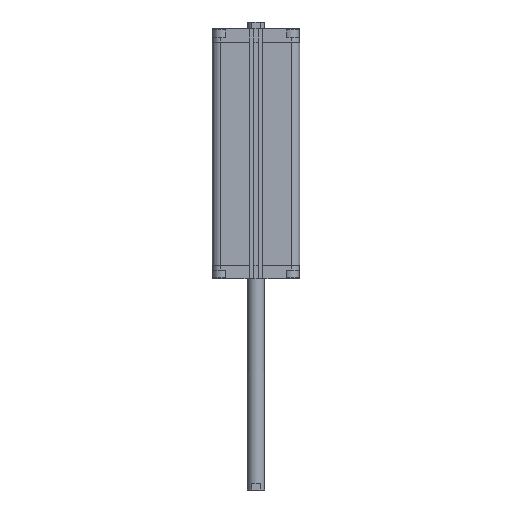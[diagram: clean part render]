
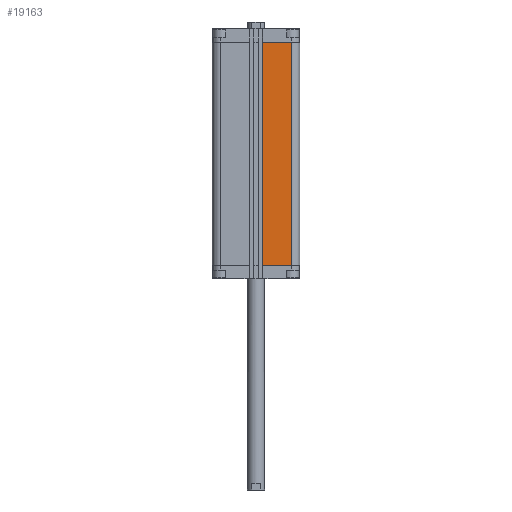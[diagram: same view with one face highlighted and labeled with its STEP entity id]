
A CAD part, front view. The second image highlights one B-rep face of the part: STEP entity #19163.
In plain terms, the highlighted planar face has unit normal (0, -1, 0).
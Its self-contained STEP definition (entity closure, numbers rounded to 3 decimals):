
#2163 = PLANE ( 'NONE',  #16288 ) ;
#2800 = CARTESIAN_POINT ( 'NONE',  ( 51.5, -64., -19.5 ) ) ;
#5303 = VECTOR ( 'NONE', #14057, 1000. ) ;
#5969 = DIRECTION ( 'NONE',  ( 1., 0., 0. ) ) ;
#5983 = VECTOR ( 'NONE', #7333, 1000. ) ;
#7081 = VERTEX_POINT ( 'NONE', #7797 ) ;
#7084 = VECTOR ( 'NONE', #5969, 1000. ) ;
#7097 = CARTESIAN_POINT ( 'NONE',  ( 9.95, -64., -347. ) ) ;
#7186 = EDGE_CURVE ( 'NONE', #10521, #7081, #9620, .T. ) ;
#7333 = DIRECTION ( 'NONE',  ( 0., 0., 1. ) ) ;
#7546 = CARTESIAN_POINT ( 'NONE',  ( 51.5, -64., -347. ) ) ;
#7797 = CARTESIAN_POINT ( 'NONE',  ( 51.5, -64., -347. ) ) ;
#7821 = LINE ( 'NONE', #19223, #5303 ) ;
#8634 = EDGE_CURVE ( 'NONE', #11647, #19847, #15532, .T. ) ;
#8718 = ORIENTED_EDGE ( 'NONE', *, *, #7186, .T. ) ;
#9620 = LINE ( 'NONE', #16173, #20302 ) ;
#10037 = EDGE_CURVE ( 'NONE', #10521, #11647, #7821, .T. ) ;
#10116 = ORIENTED_EDGE ( 'NONE', *, *, #10037, .F. ) ;
#10308 = DIRECTION ( 'NONE',  ( 0., -1., 0. ) ) ;
#10521 = VERTEX_POINT ( 'NONE', #16680 ) ;
#11647 = VERTEX_POINT ( 'NONE', #14037 ) ;
#14037 = CARTESIAN_POINT ( 'NONE',  ( 9.95, -64., -19.5 ) ) ;
#14057 = DIRECTION ( 'NONE',  ( 0., 0., 1. ) ) ;
#15532 = LINE ( 'NONE', #20595, #7084 ) ;
#16173 = CARTESIAN_POINT ( 'NONE',  ( 9.95, -64., -347. ) ) ;
#16288 = AXIS2_PLACEMENT_3D ( 'NONE', #7097, #10308, #18498 ) ;
#16624 = ORIENTED_EDGE ( 'NONE', *, *, #8634, .F. ) ;
#16680 = CARTESIAN_POINT ( 'NONE',  ( 9.95, -64., -347. ) ) ;
#18071 = FACE_OUTER_BOUND ( 'NONE', #18868, .T. ) ;
#18498 = DIRECTION ( 'NONE',  ( -1., 0., 0. ) ) ;
#18847 = LINE ( 'NONE', #7546, #5983 ) ;
#18868 = EDGE_LOOP ( 'NONE', ( #16624, #10116, #8718, #18879 ) ) ;
#18879 = ORIENTED_EDGE ( 'NONE', *, *, #19023, .T. ) ;
#19023 = EDGE_CURVE ( 'NONE', #7081, #19847, #18847, .T. ) ;
#19163 = ADVANCED_FACE ( 'NONE', ( #18071 ), #2163, .T. ) ;
#19223 = CARTESIAN_POINT ( 'NONE',  ( 9.95, -64., -347. ) ) ;
#19728 = DIRECTION ( 'NONE',  ( 1., 0., 0. ) ) ;
#19847 = VERTEX_POINT ( 'NONE', #2800 ) ;
#20302 = VECTOR ( 'NONE', #19728, 1000. ) ;
#20595 = CARTESIAN_POINT ( 'NONE',  ( 9.95, -64., -19.5 ) ) ;
